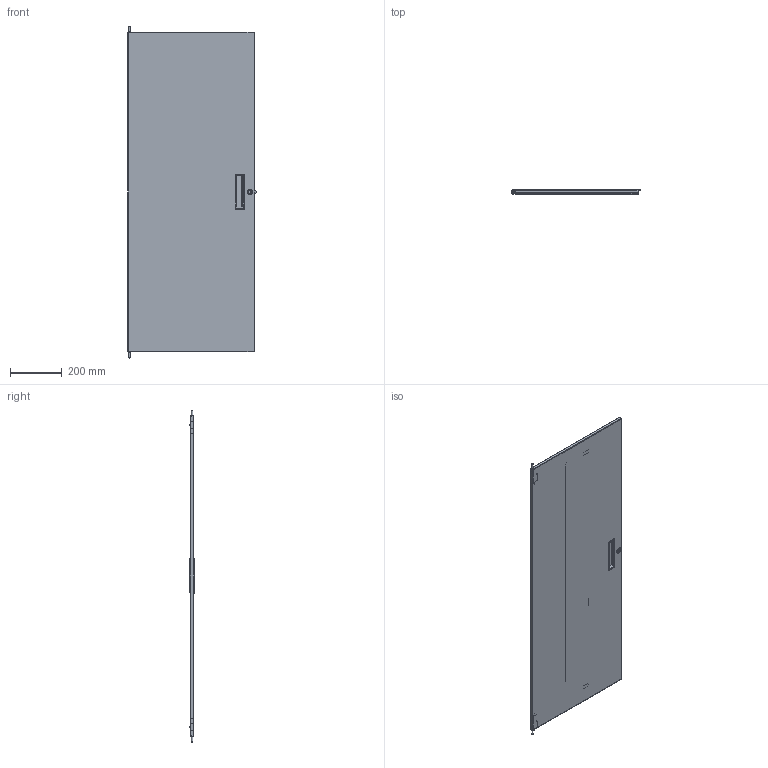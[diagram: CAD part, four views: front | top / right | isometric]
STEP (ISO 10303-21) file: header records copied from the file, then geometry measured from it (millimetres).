
FILE_DESCRIPTION( ( 'Unknown' ), '1' );
FILE_NAME( 'Q:/WEB DRAWINGS/STEP/CDF1949S.stp', 'Unknown', ( 'Unknown' ), ( 'Unknown' ), 'PSStep 17.0.49', 'Unknown', ' ' );
FILE_SCHEMA( ( 'AUTOMOTIVE_DESIGN { 1 0 10303 214 1 1 1 1 }' ) );
Length unit declared in the file: millimetre
Products named in the file (10): COM54617; HNG14581; std26020; COM53524; COM40861; Assem1; LOC13312; HAN13044; PIN17620
Assembly tree (11 placements, depth 4):
  Assem1
    LOC13312
    HAN13044
    PIN17620  x2
    COM53524
      COM40861
      COM53524
      COM54617  x2
        HNG14581
        std26020
Bounding box: 496.67 x 19.96 x 1286.15 mm (x, y, z)
Volume: 1247141 mm3; surface area: 1774282.9 mm2
Topology: 10 solids, 10 shells, 298 faces, 721 edges, 458 vertices
Faces by surface type: plane 203, cylinder 70, bspline 12, cone 9, torus 4
Full cylindrical faces by diameter (mm): 4.775 x2, 5.182 x2, 6.35 x8, 8.382 x1, 13.868 x1, 13.97 x1, 21.996 x1
Entity records: 10256 total; most frequent: CARTESIAN_POINT 1910, ORIENTED_EDGE 1240, DIRECTION 1230, EDGE_CURVE 620, LINE 466, VECTOR 466, VERTEX_POINT 402, AXIS2_PLACEMENT_3D 382
